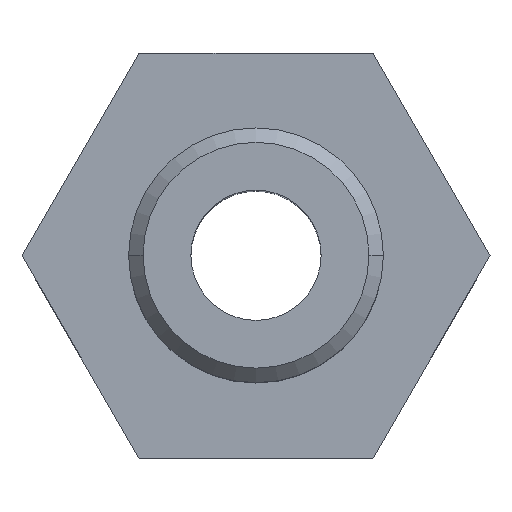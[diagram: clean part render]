
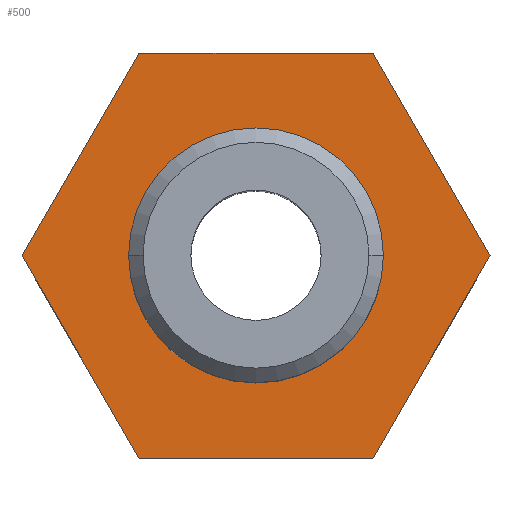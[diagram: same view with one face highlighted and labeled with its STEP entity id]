
A CAD part, top view. The second image highlights one B-rep face of the part: STEP entity #500.
In plain terms, the highlighted planar face has unit normal (0, 0, 1).
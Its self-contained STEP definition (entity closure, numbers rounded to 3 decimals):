
#2 = DIRECTION ( 'NONE',  ( -0.5, 0.866, 0. ) ) ;
#25 = VECTOR ( 'NONE', #480, 1000. ) ;
#29 = DIRECTION ( 'NONE',  ( 0., 0., 1. ) ) ;
#31 = VERTEX_POINT ( 'NONE', #90 ) ;
#33 = VECTOR ( 'NONE', #442, 1000. ) ;
#48 = DIRECTION ( 'NONE',  ( 0.5, 0.866, 0. ) ) ;
#71 = AXIS2_PLACEMENT_3D ( 'NONE', #498, #29, #390 ) ;
#74 = DIRECTION ( 'NONE',  ( 1., 0., 0. ) ) ;
#82 = FACE_OUTER_BOUND ( 'NONE', #636, .T. ) ;
#90 = CARTESIAN_POINT ( 'NONE',  ( -4.4, 0., 5. ) ) ;
#104 = VECTOR ( 'NONE', #2, 1000. ) ;
#110 = CARTESIAN_POINT ( 'NONE',  ( 8.083, 0., 5. ) ) ;
#125 = ORIENTED_EDGE ( 'NONE', *, *, #552, .T. ) ;
#152 = CARTESIAN_POINT ( 'NONE',  ( 8.083, 0., 5. ) ) ;
#163 = CARTESIAN_POINT ( 'NONE',  ( 4.041, 7., 5. ) ) ;
#177 = LINE ( 'NONE', #376, #667 ) ;
#180 = CARTESIAN_POINT ( 'NONE',  ( 4.041, -7., 5. ) ) ;
#188 = ORIENTED_EDGE ( 'NONE', *, *, #267, .T. ) ;
#205 = CARTESIAN_POINT ( 'NONE',  ( 4.4, 0., 5. ) ) ;
#217 = EDGE_CURVE ( 'NONE', #445, #422, #237, .T. ) ;
#237 = LINE ( 'NONE', #446, #33 ) ;
#242 = PLANE ( 'NONE',  #71 ) ;
#244 = VERTEX_POINT ( 'NONE', #205 ) ;
#255 = DIRECTION ( 'NONE',  ( 0., 0., 1. ) ) ;
#264 = ORIENTED_EDGE ( 'NONE', *, *, #404, .T. ) ;
#267 = EDGE_CURVE ( 'NONE', #414, #528, #520, .T. ) ;
#269 = CARTESIAN_POINT ( 'NONE',  ( 4.041, 7., 5. ) ) ;
#278 = EDGE_CURVE ( 'NONE', #31, #244, #523, .T. ) ;
#282 = ORIENTED_EDGE ( 'NONE', *, *, #278, .F. ) ;
#309 = LINE ( 'NONE', #516, #580 ) ;
#329 = DIRECTION ( 'NONE',  ( 0., 0., 1. ) ) ;
#357 = LINE ( 'NONE', #269, #25 ) ;
#372 = CARTESIAN_POINT ( 'NONE',  ( -4.041, 7., 5. ) ) ;
#375 = CARTESIAN_POINT ( 'NONE',  ( 0., 0., 5. ) ) ;
#376 = CARTESIAN_POINT ( 'NONE',  ( -4.041, -7., 5. ) ) ;
#378 = DIRECTION ( 'NONE',  ( 1., 0., 0. ) ) ;
#390 = DIRECTION ( 'NONE',  ( 1., 0., 0. ) ) ;
#404 = EDGE_CURVE ( 'NONE', #422, #414, #177, .T. ) ;
#414 = VERTEX_POINT ( 'NONE', #180 ) ;
#422 = VERTEX_POINT ( 'NONE', #539 ) ;
#427 = CIRCLE ( 'NONE', #633, 4.4 ) ;
#442 = DIRECTION ( 'NONE',  ( 0.5, -0.866, 0. ) ) ;
#445 = VERTEX_POINT ( 'NONE', #503 ) ;
#446 = CARTESIAN_POINT ( 'NONE',  ( -8.083, 0., 5. ) ) ;
#460 = CARTESIAN_POINT ( 'NONE',  ( 4.041, -7., 5. ) ) ;
#466 = LINE ( 'NONE', #152, #104 ) ;
#480 = DIRECTION ( 'NONE',  ( -1., 0., 0. ) ) ;
#498 = CARTESIAN_POINT ( 'NONE',  ( 0., 0., 5. ) ) ;
#500 = ADVANCED_FACE ( 'NONE', ( #658, #82 ), #242, .T. ) ;
#503 = CARTESIAN_POINT ( 'NONE',  ( -8.083, 0., 5. ) ) ;
#516 = CARTESIAN_POINT ( 'NONE',  ( -4.041, 7., 5. ) ) ;
#520 = LINE ( 'NONE', #460, #548 ) ;
#523 = CIRCLE ( 'NONE', #527, 4.4 ) ;
#527 = AXIS2_PLACEMENT_3D ( 'NONE', #678, #255, #567 ) ;
#528 = VERTEX_POINT ( 'NONE', #110 ) ;
#533 = ORIENTED_EDGE ( 'NONE', *, *, #671, .F. ) ;
#539 = CARTESIAN_POINT ( 'NONE',  ( -4.041, -7., 5. ) ) ;
#548 = VECTOR ( 'NONE', #48, 1000. ) ;
#552 = EDGE_CURVE ( 'NONE', #528, #655, #466, .T. ) ;
#567 = DIRECTION ( 'NONE',  ( 1., 0., 0. ) ) ;
#580 = VECTOR ( 'NONE', #620, 1000. ) ;
#588 = ORIENTED_EDGE ( 'NONE', *, *, #640, .T. ) ;
#595 = VERTEX_POINT ( 'NONE', #372 ) ;
#601 = ORIENTED_EDGE ( 'NONE', *, *, #605, .T. ) ;
#605 = EDGE_CURVE ( 'NONE', #655, #595, #357, .T. ) ;
#613 = EDGE_LOOP ( 'NONE', ( #282, #533 ) ) ;
#620 = DIRECTION ( 'NONE',  ( -0.5, -0.866, 0. ) ) ;
#633 = AXIS2_PLACEMENT_3D ( 'NONE', #375, #329, #378 ) ;
#636 = EDGE_LOOP ( 'NONE', ( #188, #125, #601, #588, #670, #264 ) ) ;
#640 = EDGE_CURVE ( 'NONE', #595, #445, #309, .T. ) ;
#655 = VERTEX_POINT ( 'NONE', #163 ) ;
#658 = FACE_BOUND ( 'NONE', #613, .T. ) ;
#667 = VECTOR ( 'NONE', #74, 1000. ) ;
#670 = ORIENTED_EDGE ( 'NONE', *, *, #217, .T. ) ;
#671 = EDGE_CURVE ( 'NONE', #244, #31, #427, .T. ) ;
#678 = CARTESIAN_POINT ( 'NONE',  ( 0., 0., 5. ) ) ;
